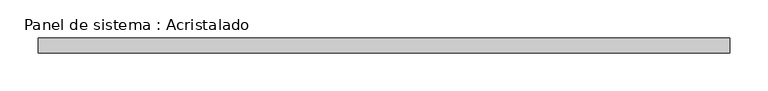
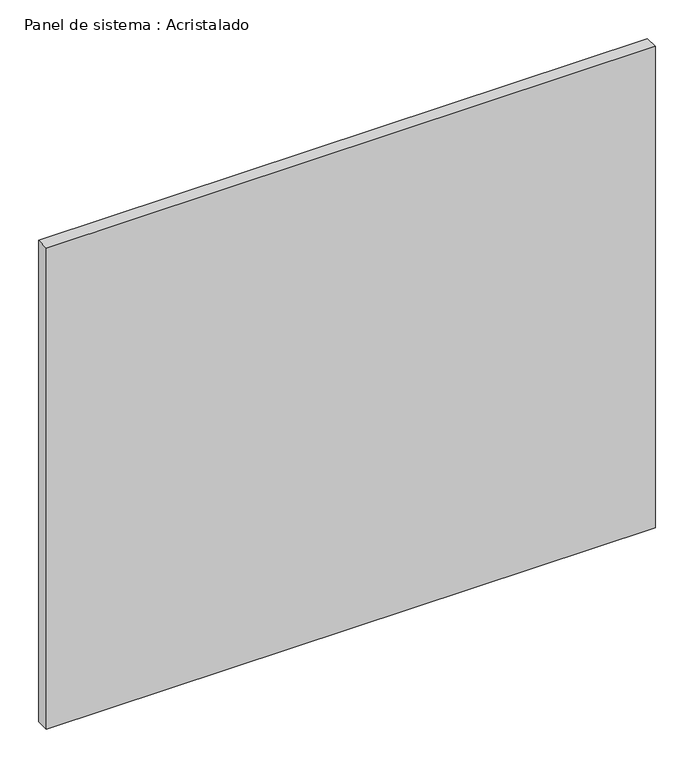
"""IFC4 building model written with IfcOpenShell, lengths in millimetres: plate geometry, Panel de sistema : Acristalado."""

from ifc_helpers import new_model, si_unit, origin, origin_with_axes, place, context, project, spatial, polyline, outline, extrude, source, transform, mapped, element, save


def panel_de_sistema_acristalado_d177cad6(model_context):
    return source(origin(), model_context, "Body", "SweptSolid", [
        extrude(outline(polyline([(455.0, -10.0), (-455.0, -10.0), (-455.0, 10.0), (455.0, 10.0), (455.0, -10.0)])), origin_with_axes(), (0.0, 0.0, 1.0), 760.0),
    ])


if __name__ == "__main__":
    model = new_model("IFC4")
    model_context = context("Model", 3, world=origin())
    ifc_project = project(units=[si_unit("LENGTHUNIT", "METRE", prefix="MILLI")], contexts=[model_context])
    site = spatial("IfcSite", under=ifc_project)
    building = spatial("IfcBuilding", under=site)
    placement = place(None, origin())
    panel_de_sistema_acristalado_shape = panel_de_sistema_acristalado_d177cad6(model_context)
    element("IfcPlate", 1, ObjectType="Panel de sistema : Acristalado", at=placement, inside=building, context=model_context, shape_type="MappedRepresentation", body=[
        mapped(panel_de_sistema_acristalado_shape, transform((0.0, 0.0, 0.0), x_axis=(1.0, 0.0, 0.0), y_axis=(0.0, 1.0, 0.0), z_axis=(0.0, 0.0, 1.0))),
    ])
    save(model, "model.ifc")
